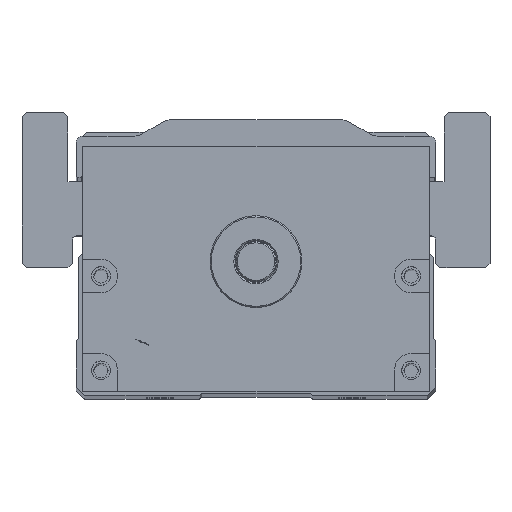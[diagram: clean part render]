
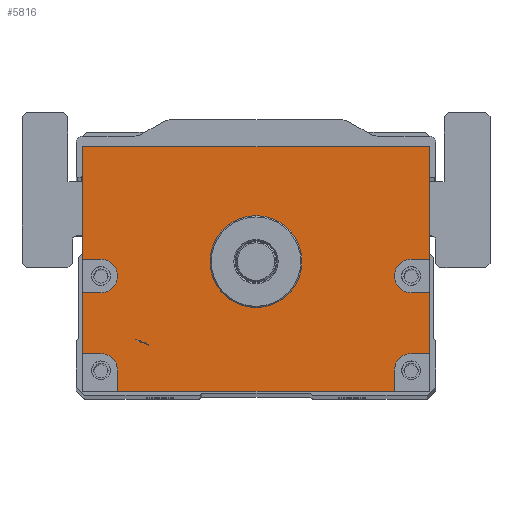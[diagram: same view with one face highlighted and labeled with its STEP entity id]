
A CAD part, top view. The second image highlights one B-rep face of the part: STEP entity #5816.
In plain terms, the highlighted planar face has unit normal (0, 0, 1).
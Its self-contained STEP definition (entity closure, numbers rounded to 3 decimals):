
#592=LINE('',#28329,#1395);
#594=LINE('',#28337,#1397);
#595=LINE('',#28340,#1398);
#596=LINE('',#28342,#1399);
#597=LINE('',#28346,#1400);
#598=LINE('',#28348,#1401);
#599=LINE('',#28349,#1402);
#600=LINE('',#28351,#1403);
#601=LINE('',#28355,#1404);
#602=LINE('',#28357,#1405);
#603=LINE('',#28359,#1406);
#604=LINE('',#28363,#1407);
#605=LINE('',#28365,#1408);
#606=LINE('',#28367,#1409);
#1395=VECTOR('',#16508,1.);
#1397=VECTOR('',#16516,1.);
#1398=VECTOR('',#16517,1.);
#1399=VECTOR('',#16518,1.);
#1400=VECTOR('',#16521,1.);
#1401=VECTOR('',#16522,1.);
#1402=VECTOR('',#16523,1.);
#1403=VECTOR('',#16524,1.);
#1404=VECTOR('',#16527,1.);
#1405=VECTOR('',#16528,1.);
#1406=VECTOR('',#16529,1.);
#1407=VECTOR('',#16532,1.);
#1408=VECTOR('',#16533,1.);
#1409=VECTOR('',#16534,1.);
#5816=ADVANCED_FACE('',(#6836,#6837),#6380,.T.);
#6380=PLANE('',#14862);
#6836=FACE_BOUND('',#7480,.T.);
#6837=FACE_BOUND('',#7481,.T.);
#7480=EDGE_LOOP('',(#9083,#9084,#9085,#9086,#9087,#9088,#9089,#9090,#9091,
#9092,#9093,#9094,#9095,#9096,#9097,#9098,#9099,#9100));
#7481=EDGE_LOOP('',(#9101));
#9083=ORIENTED_EDGE('',*,*,#12933,.F.);
#9084=ORIENTED_EDGE('',*,*,#12934,.T.);
#9085=ORIENTED_EDGE('',*,*,#12935,.F.);
#9086=ORIENTED_EDGE('',*,*,#12936,.F.);
#9087=ORIENTED_EDGE('',*,*,#12937,.F.);
#9088=ORIENTED_EDGE('',*,*,#12938,.T.);
#9089=ORIENTED_EDGE('',*,*,#12929,.T.);
#9090=ORIENTED_EDGE('',*,*,#12939,.T.);
#9091=ORIENTED_EDGE('',*,*,#12940,.F.);
#9092=ORIENTED_EDGE('',*,*,#12941,.F.);
#9093=ORIENTED_EDGE('',*,*,#12942,.F.);
#9094=ORIENTED_EDGE('',*,*,#12943,.T.);
#9095=ORIENTED_EDGE('',*,*,#12944,.F.);
#9096=ORIENTED_EDGE('',*,*,#12945,.F.);
#9097=ORIENTED_EDGE('',*,*,#12946,.F.);
#9098=ORIENTED_EDGE('',*,*,#12947,.T.);
#9099=ORIENTED_EDGE('',*,*,#12948,.F.);
#9100=ORIENTED_EDGE('',*,*,#12949,.F.);
#9101=ORIENTED_EDGE('',*,*,#12915,.T.);
#11652=VERTEX_POINT('',#28300);
#11665=VERTEX_POINT('',#28328);
#11666=VERTEX_POINT('',#28330);
#11669=VERTEX_POINT('',#28338);
#11670=VERTEX_POINT('',#28339);
#11671=VERTEX_POINT('',#28341);
#11672=VERTEX_POINT('',#28343);
#11673=VERTEX_POINT('',#28345);
#11674=VERTEX_POINT('',#28347);
#11675=VERTEX_POINT('',#28350);
#11676=VERTEX_POINT('',#28352);
#11677=VERTEX_POINT('',#28354);
#11678=VERTEX_POINT('',#28356);
#11679=VERTEX_POINT('',#28358);
#11680=VERTEX_POINT('',#28360);
#11681=VERTEX_POINT('',#28362);
#11682=VERTEX_POINT('',#28364);
#11683=VERTEX_POINT('',#28366);
#11684=VERTEX_POINT('',#28368);
#12915=EDGE_CURVE('',#11652,#11652,#14190,.T.);
#12929=EDGE_CURVE('',#11666,#11665,#592,.T.);
#12933=EDGE_CURVE('',#11669,#11670,#594,.T.);
#12934=EDGE_CURVE('',#11669,#11671,#595,.T.);
#12935=EDGE_CURVE('',#11672,#11671,#596,.T.);
#12936=EDGE_CURVE('',#11673,#11672,#14201,.T.);
#12937=EDGE_CURVE('',#11674,#11673,#597,.T.);
#12938=EDGE_CURVE('',#11674,#11666,#598,.T.);
#12939=EDGE_CURVE('',#11665,#11675,#599,.T.);
#12940=EDGE_CURVE('',#11676,#11675,#600,.T.);
#12941=EDGE_CURVE('',#11677,#11676,#14202,.T.);
#12942=EDGE_CURVE('',#11678,#11677,#601,.T.);
#12943=EDGE_CURVE('',#11678,#11679,#602,.T.);
#12944=EDGE_CURVE('',#11680,#11679,#603,.T.);
#12945=EDGE_CURVE('',#11681,#11680,#14203,.T.);
#12946=EDGE_CURVE('',#11682,#11681,#604,.T.);
#12947=EDGE_CURVE('',#11682,#11683,#605,.T.);
#12948=EDGE_CURVE('',#11684,#11683,#606,.T.);
#12949=EDGE_CURVE('',#11670,#11684,#14204,.T.);
#14190=CIRCLE('',#14844,11.);
#14201=CIRCLE('',#14858,4.);
#14202=CIRCLE('',#14859,4.);
#14203=CIRCLE('',#14860,4.);
#14204=CIRCLE('',#14861,4.);
#14844=AXIS2_PLACEMENT_3D('',#28299,#16481,#16482);
#14858=AXIS2_PLACEMENT_3D('',#28344,#16519,#16520);
#14859=AXIS2_PLACEMENT_3D('',#28353,#16525,#16526);
#14860=AXIS2_PLACEMENT_3D('',#28361,#16530,#16531);
#14861=AXIS2_PLACEMENT_3D('',#28369,#16535,#16536);
#14862=AXIS2_PLACEMENT_3D('',#28370,#16537,#16538);
#16481=DIRECTION('',(0.,0.,-1.));
#16482=DIRECTION('',(1.,0.,0.));
#16508=DIRECTION('',(-1.,0.,0.));
#16516=DIRECTION('',(-1.,0.,0.));
#16517=DIRECTION('',(0.,1.,0.));
#16518=DIRECTION('',(1.,0.,0.));
#16519=DIRECTION('',(0.,0.,1.));
#16520=DIRECTION('',(1.,0.,0.));
#16521=DIRECTION('',(-1.,0.,0.));
#16522=DIRECTION('',(0.,1.,0.));
#16523=DIRECTION('',(0.,-1.,0.));
#16524=DIRECTION('',(-1.,0.,0.));
#16525=DIRECTION('',(0.,0.,1.));
#16526=DIRECTION('',(1.,0.,0.));
#16527=DIRECTION('',(1.,0.,0.));
#16528=DIRECTION('',(0.,-1.,0.));
#16529=DIRECTION('',(-1.,0.,0.));
#16530=DIRECTION('',(0.,0.,1.));
#16531=DIRECTION('',(1.,0.,0.));
#16532=DIRECTION('',(0.,1.,0.));
#16533=DIRECTION('',(1.,0.,0.));
#16534=DIRECTION('',(0.,-1.,0.));
#16535=DIRECTION('',(0.,0.,1.));
#16536=DIRECTION('',(1.,0.,0.));
#16537=DIRECTION('',(0.,0.,1.));
#16538=DIRECTION('',(1.,0.,0.));
#28299=CARTESIAN_POINT('',(450.,0.,382.5));
#28300=CARTESIAN_POINT('',(461.,0.,382.5));
#28328=CARTESIAN_POINT('',(408.5,27.5,382.5));
#28329=CARTESIAN_POINT('',(491.5,27.5,382.5));
#28330=CARTESIAN_POINT('',(491.5,27.5,382.5));
#28337=CARTESIAN_POINT('',(491.5,-22.,382.5));
#28338=CARTESIAN_POINT('',(491.5,-22.,382.5));
#28339=CARTESIAN_POINT('',(487.115,-22.,382.5));
#28340=CARTESIAN_POINT('',(491.5,-31.,382.5));
#28341=CARTESIAN_POINT('',(491.5,-7.431,382.5));
#28342=CARTESIAN_POINT('',(491.5,-7.431,382.5));
#28343=CARTESIAN_POINT('',(487.115,-7.431,382.5));
#28344=CARTESIAN_POINT('',(487.115,-3.431,382.5));
#28345=CARTESIAN_POINT('',(487.115,0.569,382.5));
#28346=CARTESIAN_POINT('',(491.5,0.569,382.5));
#28347=CARTESIAN_POINT('',(491.5,0.569,382.5));
#28348=CARTESIAN_POINT('',(491.5,-31.,382.5));
#28349=CARTESIAN_POINT('',(408.5,27.5,382.5));
#28350=CARTESIAN_POINT('',(408.5,0.569,382.5));
#28351=CARTESIAN_POINT('',(491.5,0.569,382.5));
#28352=CARTESIAN_POINT('',(412.885,0.569,382.5));
#28353=CARTESIAN_POINT('',(412.885,-3.431,382.5));
#28354=CARTESIAN_POINT('',(412.885,-7.431,382.5));
#28355=CARTESIAN_POINT('',(491.5,-7.431,382.5));
#28356=CARTESIAN_POINT('',(408.5,-7.431,382.5));
#28357=CARTESIAN_POINT('',(408.5,27.5,382.5));
#28358=CARTESIAN_POINT('',(408.5,-22.,382.5));
#28359=CARTESIAN_POINT('',(491.5,-22.,382.5));
#28360=CARTESIAN_POINT('',(412.885,-22.,382.5));
#28361=CARTESIAN_POINT('',(412.885,-26.,382.5));
#28362=CARTESIAN_POINT('',(416.885,-26.,382.5));
#28363=CARTESIAN_POINT('',(416.885,-31.,382.5));
#28364=CARTESIAN_POINT('',(416.885,-31.,382.5));
#28365=CARTESIAN_POINT('',(408.5,-31.,382.5));
#28366=CARTESIAN_POINT('',(483.115,-31.,382.5));
#28367=CARTESIAN_POINT('',(483.115,-31.,382.5));
#28368=CARTESIAN_POINT('',(483.115,-26.,382.5));
#28369=CARTESIAN_POINT('',(487.115,-26.,382.5));
#28370=CARTESIAN_POINT('',(491.5,-31.,382.5));
